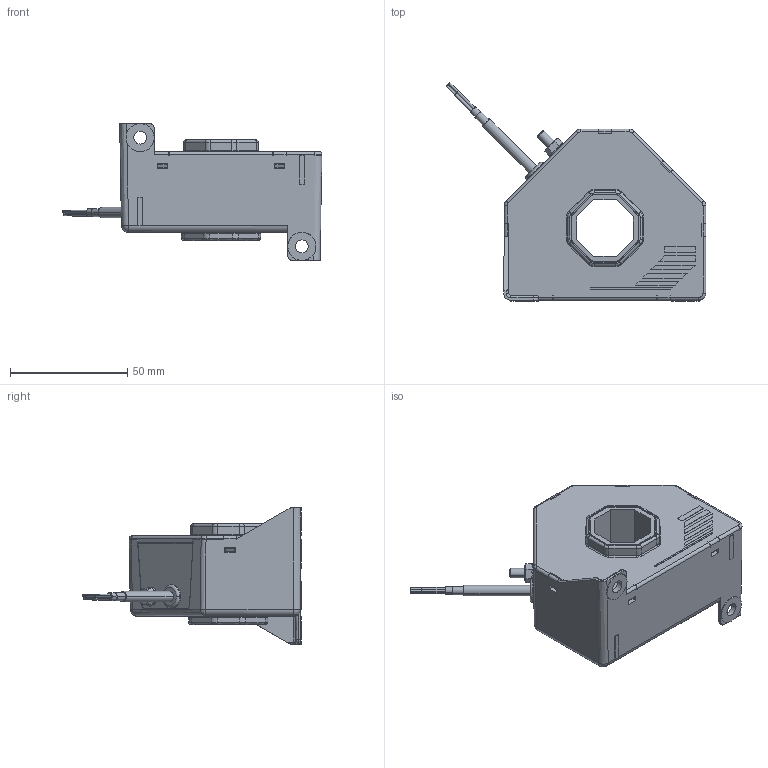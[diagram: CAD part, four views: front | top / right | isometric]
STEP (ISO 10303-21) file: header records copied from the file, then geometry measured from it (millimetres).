
FILE_DESCRIPTION(('CoCreate Modeling STEP Export'),'2;1');
FILE_NAME('LA 305-S_SP19_blackbox.stp','2009-03-16T 8:01:10',(''),(''),'CoCreate Modeling STEP processor for AP214 (Solid Model)','CoCreate Modeling 16.00A 16-Aug-2008 (C) Parametric Technology GmbH','');
FILE_SCHEMA(('AUTOMOTIVE_DESIGN { 1 0 10303 214 1 1 1 1 }'));
Length unit declared in the file: millimetre
Products named in the file (9): boitier; enveloppe; visM4x12; ecrou; rondelle_Plate_M4; Borne_Ecran_M4; passe-fil; câble_3x0.5_Cu; LA_305-S_SP19_blackbox
Assembly tree (8 placements, depth 3):
  LA_305-S_SP19_blackbox
    câble_3x0.5_Cu
    passe-fil
    Borne_Ecran_M4
      rondelle_Plate_M4
      ecrou
      visM4x12
    enveloppe
      boitier
Bounding box: 110.79 x 93.27 x 58.4 mm (x, y, z)
Volume: 1122.4 mm3; surface area: 27968.5 mm2
Topology: 5 solids, 15 shells, 1079 faces, 2814 edges, 1824 vertices
Faces by surface type: plane 798, cylinder 174, bspline 38, extrusion 32, torus 23, cone 14
Entity records: 36847 total; most frequent: CARTESIAN_POINT 10874, ORIENTED_EDGE 5616, DIRECTION 4715, EDGE_CURVE 2811, VECTOR 2267, LINE 2235, VERTEX_POINT 1824, AXIS2_PLACEMENT_3D 1224
